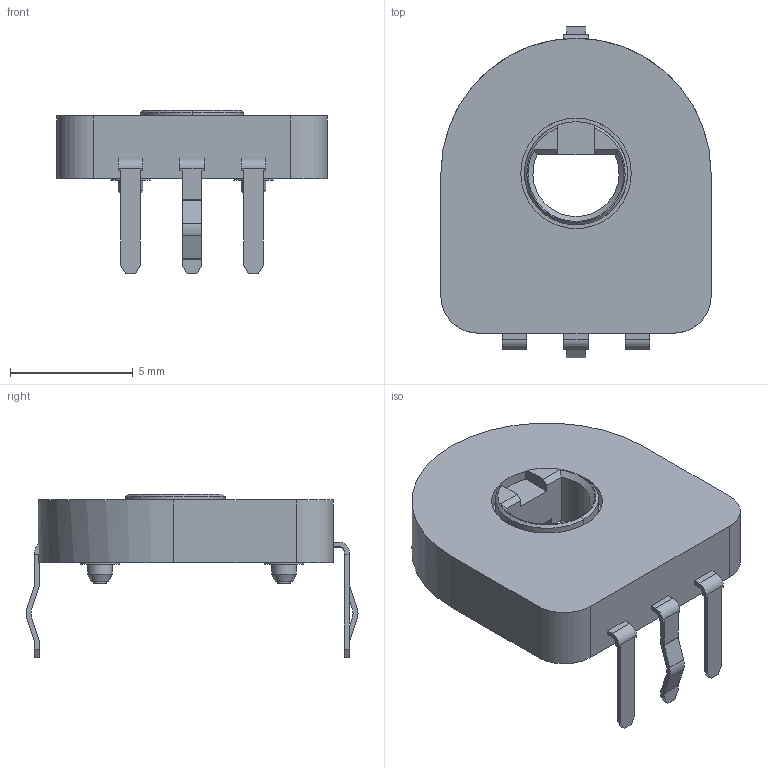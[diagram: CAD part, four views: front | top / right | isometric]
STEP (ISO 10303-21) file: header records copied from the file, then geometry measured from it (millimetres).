
FILE_DESCRIPTION (( 'STEP AP214' ), '1' );
FILE_NAME ('RDC501051A.STEP', '2017-04-20T04:01:42', ( '' ), ( '' ), 'SwSTEP 2.0', 'SolidWorks 2014', '' );
FILE_SCHEMA (( 'AUTOMOTIVE_DESIGN' ));
Length unit declared in the file: millimetre
Products named in the file (1): RDC501051A
Bounding box: 11 x 13.51 x 6.65 mm (x, y, z)
Volume: 284.6 mm3; surface area: 422.9 mm2
Topology: 1 solids, 1 shells, 167 faces, 428 edges, 280 vertices
Faces by surface type: plane 94, cylinder 56, cone 15, torus 2
Entity records: 6949 total; most frequent: CARTESIAN_POINT 909, DIRECTION 891, ORIENTED_EDGE 856, EDGE_CURVE 428, AXIS2_PLACEMENT_3D 304, VECTOR 283, LINE 283, VERTEX_POINT 280
